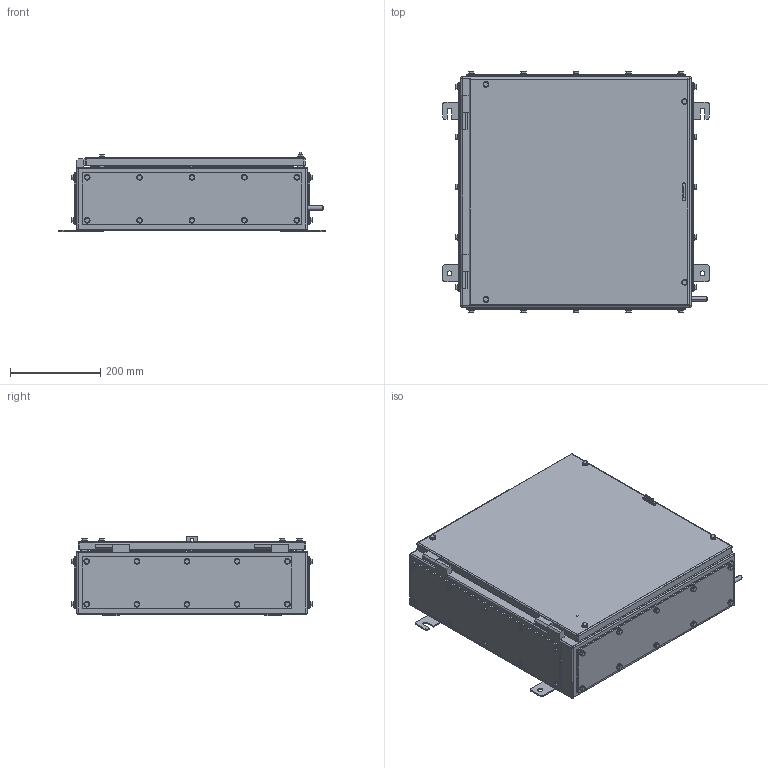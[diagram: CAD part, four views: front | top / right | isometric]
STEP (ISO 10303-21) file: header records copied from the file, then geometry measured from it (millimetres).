
FILE_DESCRIPTION (( 'STEP AP203' ), '1' );
FILE_NAME ('SX5_140_4GP.STEP', '2021-05-20T14:40:00', ( '' ), ( '' ), 'SwSTEP 2.0', 'SolidWorks 2020', '' );
FILE_SCHEMA (( 'CONFIG_CONTROL_DESIGN' ));
Length unit declared in the file: millimetre
Products named in the file (10): hex screw gradec_bsi_BS EN 24018 - M6 x 16-WN; plain washer form a_bsi_Bright washer BS 4320 - M6 (Form A); hex screw gradec_bsi_BS EN 24018 - M6 x 20-WN; SX5-140 Base Gasket; SX5_140_4GP; SX5-140 Base Gland plate; SX5_140_4GP Body; SX5 Door; SX5-140 side Gland plate; SX5-140 side Gasket
Assembly tree (98 placements, depth 2):
  SX5_140_4GP
    SX5 Door
    hex screw gradec_bsi_BS EN 24018 - M6 x 16-WN  x40
    hex screw gradec_bsi_BS EN 24018 - M6 x 20-WN  x4
    plain washer form a_bsi_Bright washer BS 4320 - M6 (Form A)  x44
    SX5_140_4GP Body
    SX5-140 Base Gland plate  x2
    SX5-140 Base Gasket  x2
    SX5-140 side Gasket  x2
    SX5-140 side Gland plate  x2
Bounding box: 590 x 533.95 x 176 mm (x, y, z)
Volume: 2621328.1 mm3; surface area: 2295619 mm2
Topology: 98 solids, 98 shells, 2310 faces, 5042 edges, 3048 vertices
Faces by surface type: plane 1050, cylinder 852, cone 360, sphere 40, torus 8
Entity records: 26734 total; most frequent: DIRECTION 4484, CARTESIAN_POINT 3975, ORIENTED_EDGE 3620, EDGE_CURVE 1810, AXIS2_PLACEMENT_3D 1797, VERTEX_POINT 1144, EDGE_LOOP 1026, CIRCLE 896
